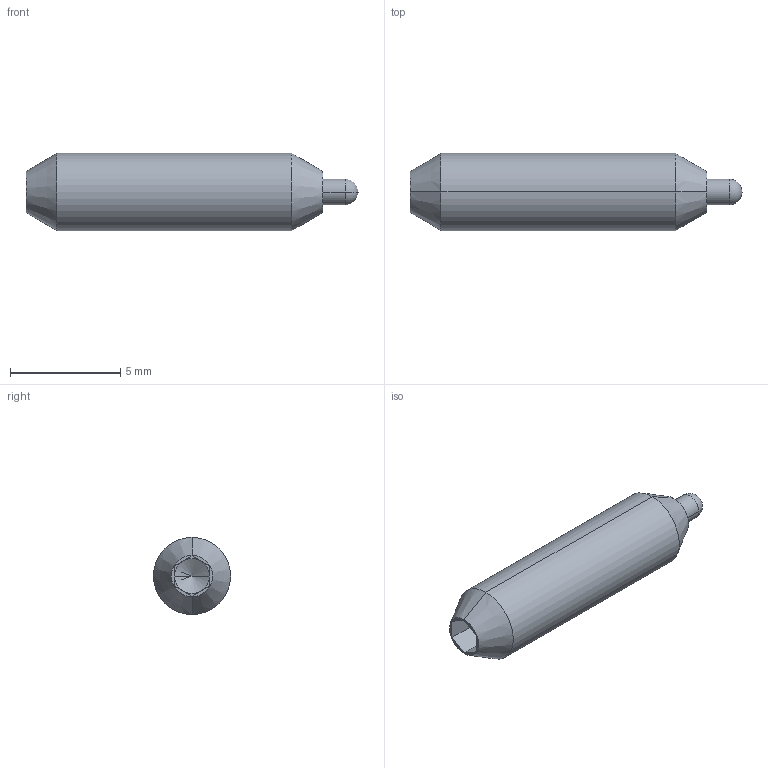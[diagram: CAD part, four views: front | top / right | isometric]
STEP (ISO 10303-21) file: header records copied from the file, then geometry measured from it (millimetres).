
FILE_DESCRIPTION (( 'STEP AP203' ), '1' );
FILE_NAME ('3B20.W363.step', '2009-10-12T14:03:34', ( 'Wixroyd' ), ( 'Wixroyd' ), 'SwSTEP 2.0', 'SolidWorks 2009', '' );
FILE_SCHEMA (( 'CONFIG_CONTROL_DESIGN' ));
Length unit declared in the file: inch
Products named in the file (3): Part1_3B20.W363; Part2_3B20.W363; 3B20.W363
Assembly tree (2 placements, depth 2):
  3B20.W363
    Part1_3B20.W363
    Part2_3B20.W363
Bounding box: 15.09 x 3.51 x 3.51 mm (x, y, z)
Volume: 100 mm3; surface area: 229.2 mm2
Topology: 2 solids, 2 shells, 43 faces, 92 edges, 52 vertices
Faces by surface type: plane 17, cylinder 12, cone 12, sphere 2
Entity records: 1413 total; most frequent: DIRECTION 220, CARTESIAN_POINT 184, ORIENTED_EDGE 172, EDGE_CURVE 86, AXIS2_PLACEMENT_3D 86, VERTEX_POINT 50, VECTOR 48, LINE 48
